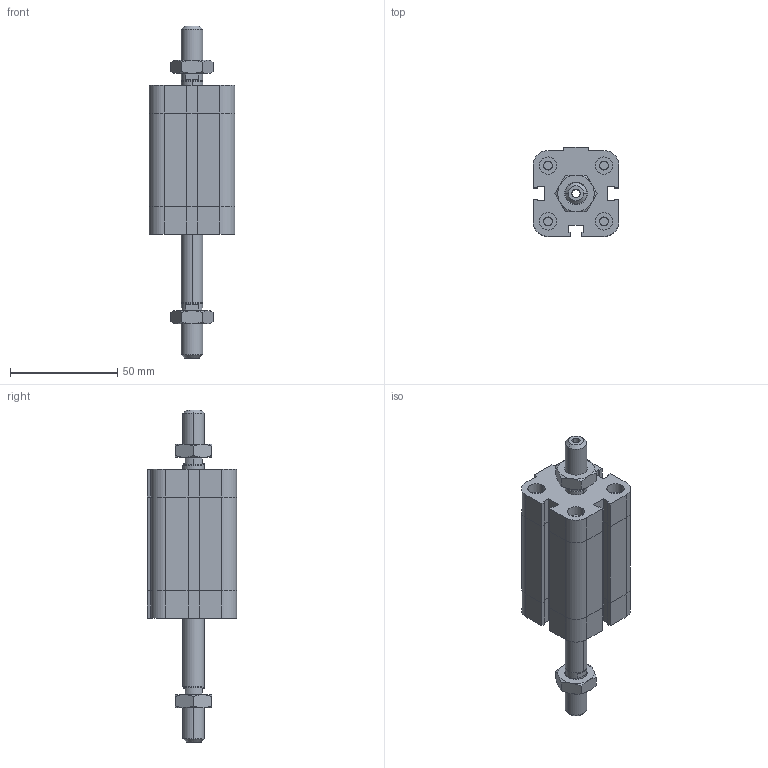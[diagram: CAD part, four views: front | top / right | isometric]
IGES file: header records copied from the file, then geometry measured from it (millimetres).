
Global section: file name: No Iges File Name specified; native system: Autodesk Inventor 2009; preprocessor: AutoDesk Inventor Iges Exporter R2009; author: maffial1; date: 20090420.142656; units: millimetre
Bounding box: 40 x 41.5 x 154.5 mm (x, y, z)
Volume: 105826 mm3; surface area: 29501.7 mm2
Topology: 4 solids, 4 shells, 262 faces, 580 edges, 346 vertices
Faces by surface type: plane 129, bspline 53, cone 38, cylinder 22, revolution 20
